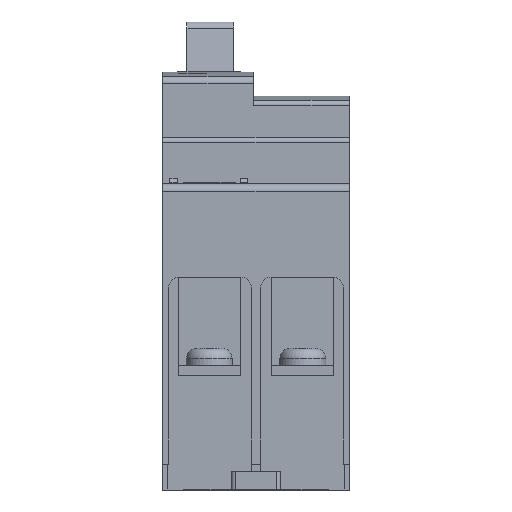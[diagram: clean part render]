
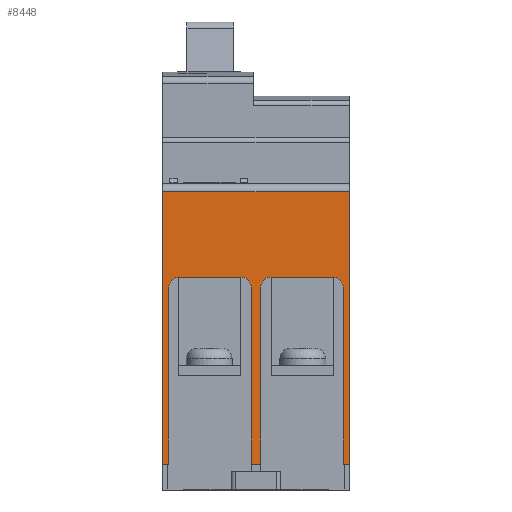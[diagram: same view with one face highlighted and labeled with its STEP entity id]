
A CAD part, front view. The second image highlights one B-rep face of the part: STEP entity #8448.
In plain terms, the highlighted planar face has unit normal (0, -1, 0) as drawn and (0, 1, 0) by its records, which use the part's own axes.
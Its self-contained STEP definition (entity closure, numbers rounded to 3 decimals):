
#184 = VERTEX_POINT ( 'NONE', #7662 ) ;
#187 = LINE ( 'NONE', #8389, #5416 ) ;
#202 = VECTOR ( 'NONE', #5149, 1000. ) ;
#300 = DIRECTION ( 'NONE',  ( 0., 0., 1. ) ) ;
#367 = AXIS2_PLACEMENT_3D ( 'NONE', #4606, #2755, #1812 ) ;
#488 = CARTESIAN_POINT ( 'NONE',  ( -18., 0., 0. ) ) ;
#568 = EDGE_CURVE ( 'NONE', #5302, #1905, #7924, .T. ) ;
#692 = CIRCLE ( 'NONE', #2839, 2. ) ;
#717 = PLANE ( 'NONE',  #2038 ) ;
#833 = CARTESIAN_POINT ( 'NONE',  ( -14.8, 0., -36. ) ) ;
#844 = DIRECTION ( 'NONE',  ( 0., 0., -1. ) ) ;
#936 = ORIENTED_EDGE ( 'NONE', *, *, #6888, .F. ) ;
#1252 = CARTESIAN_POINT ( 'NONE',  ( -16.8, 0., 0. ) ) ;
#1430 = LINE ( 'NONE', #488, #4509 ) ;
#1436 = VERTEX_POINT ( 'NONE', #7361 ) ;
#1556 = FACE_OUTER_BOUND ( 'NONE', #7844, .T. ) ;
#1565 = EDGE_CURVE ( 'NONE', #6428, #1905, #5536, .T. ) ;
#1628 = ORIENTED_EDGE ( 'NONE', *, *, #2660, .T. ) ;
#1676 = EDGE_CURVE ( 'NONE', #6428, #5672, #3507, .T. ) ;
#1749 = DIRECTION ( 'NONE',  ( 1., 0., 0. ) ) ;
#1759 = EDGE_CURVE ( 'NONE', #2727, #2659, #1919, .T. ) ;
#1778 = DIRECTION ( 'NONE',  ( 0., 0., -1. ) ) ;
#1787 = LINE ( 'NONE', #833, #8471 ) ;
#1795 = ORIENTED_EDGE ( 'NONE', *, *, #7264, .F. ) ;
#1796 = CARTESIAN_POINT ( 'NONE',  ( -18., 0., 0. ) ) ;
#1812 = DIRECTION ( 'NONE',  ( 0., 0., -1. ) ) ;
#1813 = VECTOR ( 'NONE', #3671, 1000. ) ;
#1905 = VERTEX_POINT ( 'NONE', #3079 ) ;
#1919 = LINE ( 'NONE', #8230, #3285 ) ;
#2038 = AXIS2_PLACEMENT_3D ( 'NONE', #7052, #6122, #5179 ) ;
#2190 = LINE ( 'NONE', #1252, #8452 ) ;
#2206 = CIRCLE ( 'NONE', #3370, 2. ) ;
#2301 = CARTESIAN_POINT ( 'NONE',  ( 16.8, 0., 0. ) ) ;
#2473 = ORIENTED_EDGE ( 'NONE', *, *, #1676, .F. ) ;
#2539 = VECTOR ( 'NONE', #6056, 1000. ) ;
#2578 = EDGE_CURVE ( 'NONE', #1436, #8995, #2190, .T. ) ;
#2629 = CARTESIAN_POINT ( 'NONE',  ( 18., 0., -52.5 ) ) ;
#2659 = VERTEX_POINT ( 'NONE', #7627 ) ;
#2660 = EDGE_CURVE ( 'NONE', #184, #8995, #6695, .T. ) ;
#2693 = CARTESIAN_POINT ( 'NONE',  ( -18., 0., -52.5 ) ) ;
#2723 = DIRECTION ( 'NONE',  ( 0., 1., 0. ) ) ;
#2727 = VERTEX_POINT ( 'NONE', #2301 ) ;
#2741 = LINE ( 'NONE', #1796, #7323 ) ;
#2755 = DIRECTION ( 'NONE',  ( 0., 1., 0. ) ) ;
#2839 = AXIS2_PLACEMENT_3D ( 'NONE', #6751, #4868, #3943 ) ;
#2969 = CIRCLE ( 'NONE', #367, 2. ) ;
#3079 = CARTESIAN_POINT ( 'NONE',  ( 0.9, 0., 0. ) ) ;
#3199 = CARTESIAN_POINT ( 'NONE',  ( 18., 0., 0. ) ) ;
#3213 = VERTEX_POINT ( 'NONE', #6740 ) ;
#3273 = ORIENTED_EDGE ( 'NONE', *, *, #5376, .F. ) ;
#3285 = VECTOR ( 'NONE', #7301, 1000. ) ;
#3339 = DIRECTION ( 'NONE',  ( 0., 0., -1. ) ) ;
#3351 = ORIENTED_EDGE ( 'NONE', *, *, #2578, .F. ) ;
#3368 = ORIENTED_EDGE ( 'NONE', *, *, #9116, .F. ) ;
#3370 = AXIS2_PLACEMENT_3D ( 'NONE', #3641, #2723, #1778 ) ;
#3433 = CARTESIAN_POINT ( 'NONE',  ( 2.9, 0., -36. ) ) ;
#3489 = DIRECTION ( 'NONE',  ( 0., 0., -1. ) ) ;
#3507 = LINE ( 'NONE', #6089, #202 ) ;
#3544 = CARTESIAN_POINT ( 'NONE',  ( -0.9, 0., -34. ) ) ;
#3577 = VECTOR ( 'NONE', #4815, 1000. ) ;
#3611 = LINE ( 'NONE', #2693, #7597 ) ;
#3622 = CARTESIAN_POINT ( 'NONE',  ( -16.8, 0., 0. ) ) ;
#3641 = CARTESIAN_POINT ( 'NONE',  ( -2.9, 0., -34. ) ) ;
#3671 = DIRECTION ( 'NONE',  ( 1., 0., 0. ) ) ;
#3748 = ORIENTED_EDGE ( 'NONE', *, *, #3992, .F. ) ;
#3918 = CARTESIAN_POINT ( 'NONE',  ( -14.8, 0., -36. ) ) ;
#3943 = DIRECTION ( 'NONE',  ( 0., 0., -1. ) ) ;
#3992 = EDGE_CURVE ( 'NONE', #7594, #5302, #692, .T. ) ;
#4015 = EDGE_CURVE ( 'NONE', #3213, #7594, #187, .T. ) ;
#4255 = EDGE_CURVE ( 'NONE', #5171, #4532, #3611, .T. ) ;
#4258 = CARTESIAN_POINT ( 'NONE',  ( 18., 0., 0. ) ) ;
#4412 = DIRECTION ( 'NONE',  ( 0., 1., 0. ) ) ;
#4417 = VERTEX_POINT ( 'NONE', #6742 ) ;
#4509 = VECTOR ( 'NONE', #8689, 1000. ) ;
#4532 = VERTEX_POINT ( 'NONE', #2629 ) ;
#4544 = CARTESIAN_POINT ( 'NONE',  ( 0.9, 0., -34. ) ) ;
#4603 = CARTESIAN_POINT ( 'NONE',  ( -18., 0., 0. ) ) ;
#4606 = CARTESIAN_POINT ( 'NONE',  ( -14.8, 0., -34. ) ) ;
#4681 = EDGE_CURVE ( 'NONE', #4417, #7666, #1787, .T. ) ;
#4704 = ORIENTED_EDGE ( 'NONE', *, *, #8815, .T. ) ;
#4753 = ORIENTED_EDGE ( 'NONE', *, *, #568, .F. ) ;
#4815 = DIRECTION ( 'NONE',  ( 1., 0., 0. ) ) ;
#4868 = DIRECTION ( 'NONE',  ( 0., 1., 0. ) ) ;
#5145 = CARTESIAN_POINT ( 'NONE',  ( -18., 0., -52.5 ) ) ;
#5149 = DIRECTION ( 'NONE',  ( 0., 0., -1. ) ) ;
#5171 = VERTEX_POINT ( 'NONE', #5145 ) ;
#5179 = DIRECTION ( 'NONE',  ( 0., 0., -1. ) ) ;
#5223 = EDGE_CURVE ( 'NONE', #8650, #4532, #6143, .T. ) ;
#5302 = VERTEX_POINT ( 'NONE', #4544 ) ;
#5376 = EDGE_CURVE ( 'NONE', #184, #5171, #2741, .T. ) ;
#5416 = VECTOR ( 'NONE', #7465, 1000. ) ;
#5536 = LINE ( 'NONE', #4603, #1813 ) ;
#5667 = CIRCLE ( 'NONE', #7256, 2. ) ;
#5672 = VERTEX_POINT ( 'NONE', #3544 ) ;
#5726 = ORIENTED_EDGE ( 'NONE', *, *, #1565, .T. ) ;
#5743 = CARTESIAN_POINT ( 'NONE',  ( -0.9, 0., 0. ) ) ;
#5746 = CARTESIAN_POINT ( 'NONE',  ( -18., 0., 0. ) ) ;
#5768 = ORIENTED_EDGE ( 'NONE', *, *, #4255, .F. ) ;
#6056 = DIRECTION ( 'NONE',  ( 0., 0., 1. ) ) ;
#6089 = CARTESIAN_POINT ( 'NONE',  ( -0.9, 0., 0. ) ) ;
#6122 = DIRECTION ( 'NONE',  ( 0., -1., 0. ) ) ;
#6143 = LINE ( 'NONE', #4258, #6554 ) ;
#6292 = CARTESIAN_POINT ( 'NONE',  ( 14.8, 0., -34. ) ) ;
#6428 = VERTEX_POINT ( 'NONE', #5743 ) ;
#6554 = VECTOR ( 'NONE', #3339, 1000. ) ;
#6695 = LINE ( 'NONE', #5746, #3577 ) ;
#6740 = CARTESIAN_POINT ( 'NONE',  ( 14.8, 0., -36. ) ) ;
#6742 = CARTESIAN_POINT ( 'NONE',  ( -2.9, 0., -36. ) ) ;
#6751 = CARTESIAN_POINT ( 'NONE',  ( 2.9, 0., -34. ) ) ;
#6778 = ORIENTED_EDGE ( 'NONE', *, *, #4015, .F. ) ;
#6839 = ORIENTED_EDGE ( 'NONE', *, *, #1759, .F. ) ;
#6888 = EDGE_CURVE ( 'NONE', #2659, #3213, #5667, .T. ) ;
#6993 = CARTESIAN_POINT ( 'NONE',  ( 0.9, 0., -34. ) ) ;
#7052 = CARTESIAN_POINT ( 'NONE',  ( -18., 0., 0. ) ) ;
#7256 = AXIS2_PLACEMENT_3D ( 'NONE', #6292, #4412, #3489 ) ;
#7264 = EDGE_CURVE ( 'NONE', #5672, #4417, #2206, .T. ) ;
#7301 = DIRECTION ( 'NONE',  ( 0., 0., -1. ) ) ;
#7323 = VECTOR ( 'NONE', #844, 1000. ) ;
#7361 = CARTESIAN_POINT ( 'NONE',  ( -16.8, 0., -34. ) ) ;
#7438 = ORIENTED_EDGE ( 'NONE', *, *, #4681, .F. ) ;
#7465 = DIRECTION ( 'NONE',  ( -1., 0., 0. ) ) ;
#7594 = VERTEX_POINT ( 'NONE', #3433 ) ;
#7597 = VECTOR ( 'NONE', #1749, 1000. ) ;
#7627 = CARTESIAN_POINT ( 'NONE',  ( 16.8, 0., -34. ) ) ;
#7662 = CARTESIAN_POINT ( 'NONE',  ( -18., 0., 0. ) ) ;
#7666 = VERTEX_POINT ( 'NONE', #3918 ) ;
#7844 = EDGE_LOOP ( 'NONE', ( #936, #6839, #4704, #8706, #5768, #3273, #1628, #3351, #3368, #7438, #1795, #2473, #5726, #4753, #3748, #6778 ) ) ;
#7924 = LINE ( 'NONE', #6993, #2539 ) ;
#8230 = CARTESIAN_POINT ( 'NONE',  ( 16.8, 0., -34. ) ) ;
#8389 = CARTESIAN_POINT ( 'NONE',  ( 2.9, 0., -36. ) ) ;
#8448 = ADVANCED_FACE ( 'NONE', ( #1556 ), #717, .F. ) ;
#8452 = VECTOR ( 'NONE', #300, 1000. ) ;
#8471 = VECTOR ( 'NONE', #9032, 1000. ) ;
#8650 = VERTEX_POINT ( 'NONE', #3199 ) ;
#8689 = DIRECTION ( 'NONE',  ( 1., 0., 0. ) ) ;
#8706 = ORIENTED_EDGE ( 'NONE', *, *, #5223, .T. ) ;
#8815 = EDGE_CURVE ( 'NONE', #2727, #8650, #1430, .T. ) ;
#8995 = VERTEX_POINT ( 'NONE', #3622 ) ;
#9032 = DIRECTION ( 'NONE',  ( -1., 0., 0. ) ) ;
#9116 = EDGE_CURVE ( 'NONE', #7666, #1436, #2969, .T. ) ;
